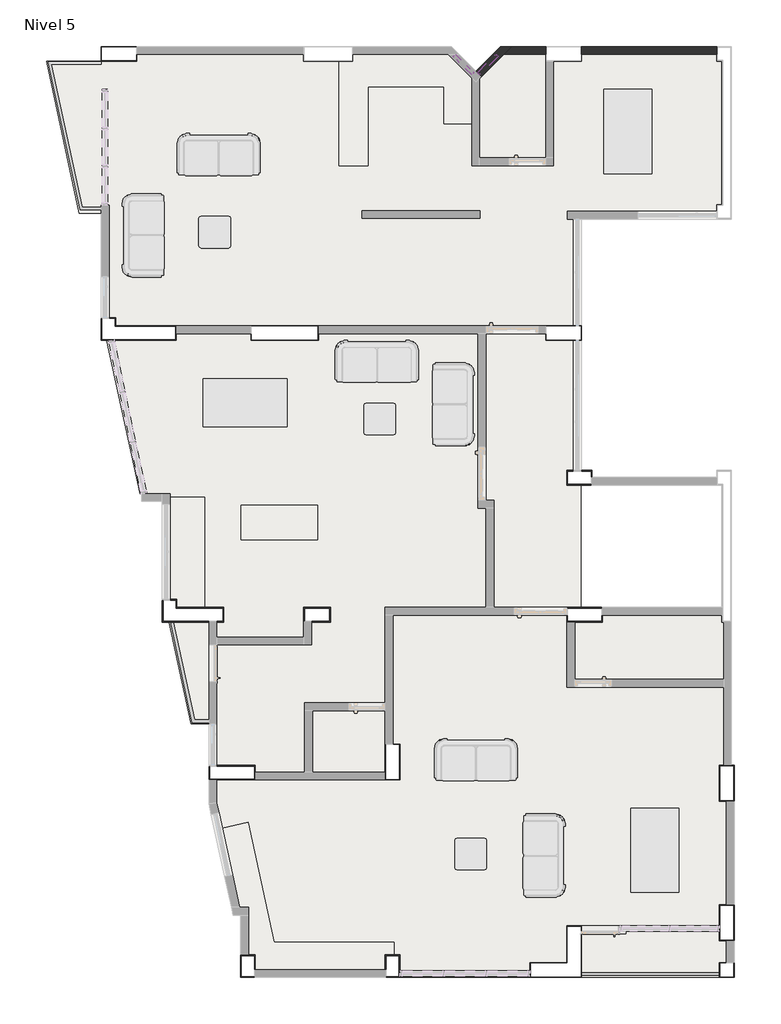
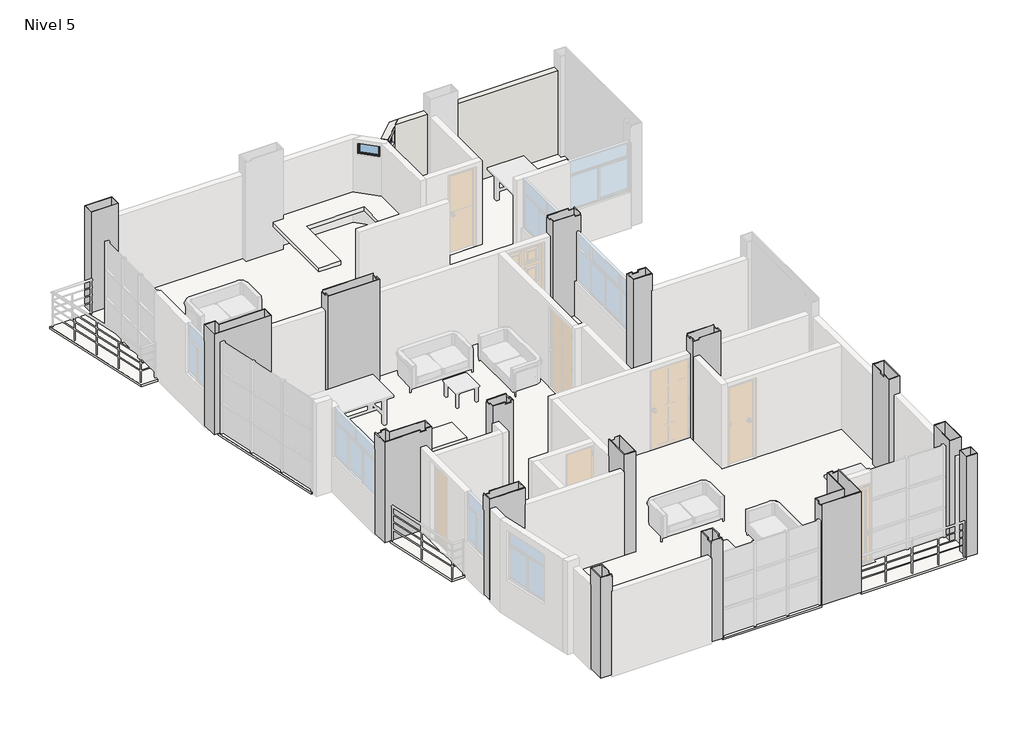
# One storey, part 3 of 4: 16 columns, 12 slabs, 3 walls, 2 windows.
"""IFC4 building model written with IfcOpenShell, lengths in millimetres."""

from ifc_helpers import new_model, si_unit, frame, origin, place, context, project, spatial, polyline, outline, extrude, faceted_brep, transform, mapped, element, save
from components import ventana_alta_1_cuerpo_va_0_50x0_30_m_a0596043

model = new_model("IFC4")

# Units and contexts
model_context = context("Model", 3, world=origin())
ifc_project = project(units=[si_unit("LENGTHUNIT", "METRE", prefix="MILLI")], contexts=[model_context])

# Site, building, storey
site = spatial("IfcSite", under=ifc_project)
building = spatial("IfcBuilding", under=site)
storey = spatial("IfcBuildingStorey", under=building, Name="Nivel 5", Elevation=10750.0)

# Columns
placement = place(None, origin())
element("IfcColumn", 1, ObjectType="Columna L Arquitectonica : ACO_L 40x114x25 cm", at=placement, inside=storey, context=model_context, shape_type="Brep", body=[
    faceted_brep([(-350.0, 6750.0, 10750.0), (-350.0, 7000.0, 10750.0), (-1240.0, 7000.0, 10750.0), (-1240.0, 7150.0, 10750.0), (-1355.0, 7150.0, 10750.0), (-1355.0, 7165.0, 10750.0), (-1225.0, 7165.0, 10750.0), (-1225.0, 7015.0, 10750.0), (-335.0, 7015.0, 10750.0), (-335.0, 6735.0, 10750.0), (-465.0, 6735.0, 10750.0), (-465.0, 6750.0, 10750.0), (-1240.0, 7150.0, 13400.0), (-1355.0, 7150.0, 13400.0), (-1355.0, 7150.0, 13350.0), (-1490.0, 7150.0, 13350.0), (-1490.0, 7150.0, 12950.0), (-1355.0, 7150.0, 12950.0), (-1490.0, 6750.0, 10750.0), (-1490.0, 7150.0, 10750.0), (-1490.0, 7150.0, 13400.0), (-1490.0, 6750.0, 13400.0), (-615.0, 6750.0, 13400.0), (-615.0, 6750.0, 13350.0), (-465.0, 6750.0, 13350.0), (-465.0, 6750.0, 13400.0), (-350.0, 6750.0, 13400.0), (-465.0, 6750.0, 12950.0), (-615.0, 6750.0, 12950.0), (-615.0, 6750.0, 10750.0), (-350.0, 7000.0, 13400.0), (-1240.0, 7000.0, 13400.0), (-1225.0, 7165.0, 13400.0), (-1225.0, 7015.0, 13400.0), (-335.0, 7015.0, 13400.0), (-335.0, 7015.0, 13350.0), (-335.0, 6735.0, 13400.0), (-465.0, 6735.0, 13400.0), (-465.0, 6735.0, 13350.0), (-615.0, 6735.0, 13350.0), (-615.0, 6735.0, 13400.0), (-1505.0, 6735.0, 13400.0), (-1505.0, 6735.0, 10750.0), (-615.0, 6735.0, 10750.0), (-615.0, 6735.0, 12950.0), (-465.0, 6735.0, 12950.0), (-1505.0, 7150.0, 13400.0), (-1505.0, 7150.0, 13350.0), (-1505.0, 7165.0, 13350.0), (-1505.0, 7165.0, 12950.0), (-1505.0, 7150.0, 12950.0), (-1505.0, 7150.0, 10750.0), (-1355.0, 7165.0, 11650.0), (-1355.0, 7165.0, 12950.0), (-1355.0, 7165.0, 13350.0), (-1355.0, 7165.0, 13400.0)], [[[0, 1, 2, 3, 4, 5, 6, 7, 8, 9, 10, 11]], [[3, 12, 13, 14, 15, 16, 17, 4]], [[18, 19, 16, 15, 20, 21]], [[18, 21, 22, 23, 24, 25, 26, 0, 11, 27, 28, 29]], [[1, 0, 26, 30]], [[2, 1, 30, 31]], [[3, 2, 31, 12]], [[7, 6, 32, 33]], [[8, 7, 33, 34, 35]], [[9, 8, 35, 34, 36]], [[9, 36, 37, 38, 39, 40, 41, 42, 43, 44, 45, 10]], [[42, 41, 46, 47, 48, 49, 50, 51]], [[32, 6, 5, 52, 53, 49, 48, 54, 55]], [[21, 20, 46, 41, 40, 22]], [[11, 10, 45, 27]], [[43, 29, 28, 44]], [[28, 27, 45, 44]], [[5, 4, 17, 53, 52]], [[16, 50, 49, 53, 17]], [[50, 16, 19, 51]], [[19, 18, 29, 43, 42, 51]], [[54, 14, 13, 55]], [[47, 15, 14, 54, 48]], [[15, 47, 46, 20]], [[24, 38, 37, 25]], [[39, 23, 22, 40]], [[38, 24, 23, 39]], [[30, 26, 25, 37, 36, 34, 33, 32, 55, 13, 12, 31]]]),
])
element("IfcColumn", 2, ObjectType="Columna L Arquitectonica : ACO_L 40x140x25 cm", at=placement, inside=storey, context=model_context, shape_type="Brep", body=[
    faceted_brep([(-2650.0, 12500.0, 10750.0), (-2650.0, 12100.0, 10750.0), (-1250.0, 12100.0, 10750.0), (-1250.0, 12350.0, 10750.0), (-2400.0, 12350.0, 10750.0), (-2400.0, 12500.0, 10750.0), (-2515.0, 12500.0, 10750.0), (-2515.0, 12515.0, 10750.0), (-2385.0, 12515.0, 10750.0), (-2385.0, 12365.0, 10750.0), (-1235.0, 12365.0, 10750.0), (-1235.0, 12085.0, 10750.0), (-2665.0, 12085.0, 10750.0), (-2665.0, 12500.0, 10750.0), (-2400.0, 12500.0, 13400.0), (-2650.0, 12500.0, 13400.0), (-2650.0, 12500.0, 12950.0), (-2515.0, 12500.0, 12950.0), (-2650.0, 12100.0, 13400.0), (-1250.0, 12100.0, 13400.0), (-1250.0, 12350.0, 13400.0), (-2400.0, 12350.0, 13400.0), (-2385.0, 12515.0, 13400.0), (-2385.0, 12365.0, 13400.0), (-1240.0, 12365.0, 13400.0), (-1240.0, 12365.0, 13350.0), (-1235.0, 12365.0, 13350.0), (-1235.0, 12365.0, 12950.0), (-1235.0, 12215.0, 13350.0), (-1235.0, 12215.0, 13400.0), (-1235.0, 12085.0, 13400.0), (-1355.0, 12085.0, 13400.0), (-1505.0, 12085.0, 13400.0), (-2665.0, 12085.0, 13400.0), (-2665.0, 12515.0, 13400.0), (-2665.0, 12515.0, 13350.0), (-2665.0, 12515.0, 12950.0), (-2665.0, 12500.0, 12950.0), (-2515.0, 12515.0, 11650.0), (-2515.0, 12515.0, 12950.0), (-1240.0, 12215.0, 13400.0), (-1240.0, 12215.0, 13350.0)], [[[0, 1, 2, 3, 4, 5, 6, 7, 8, 9, 10, 11, 12, 13]], [[14, 15, 16, 17, 6, 5]], [[1, 0, 16, 15, 18]], [[2, 1, 18, 19]], [[3, 2, 19, 20]], [[4, 3, 20, 21]], [[5, 4, 21, 14]], [[9, 8, 22, 23]], [[10, 9, 23, 24, 25, 26, 27]], [[11, 10, 27, 26, 28, 29, 30]], [[12, 11, 30, 31, 32, 33]], [[12, 33, 34, 35, 36, 37, 13]], [[22, 8, 7, 38, 39, 36, 35, 34]], [[23, 22, 34, 33, 32, 31, 30, 29, 40, 24], [15, 14, 21, 20, 19, 18]], [[7, 6, 17, 39, 38]], [[16, 37, 36, 39, 17]], [[37, 16, 0, 13]], [[28, 41, 40, 29]], [[25, 41, 28, 26]], [[41, 25, 24, 40]]]),
])
element("IfcColumn", 3, ObjectType="Columna L Arquitectonica : ACO_L 95x95x25 cm", at=placement, inside=storey, context=model_context, shape_type="Brep", body=[
    faceted_brep([(5485.0, 265.0, 10750.0), (6185.0, 265.0, 10750.0), (6185.0, 965.0, 10750.0), (6465.0, 965.0, 10750.0), (6465.0, -15.0, 10750.0), (5485.0, -15.0, 10750.0), (5500.0, 250.0, 10750.0), (5500.0, 0.0, 10750.0), (6450.0, 0.0, 10750.0), (6450.0, 950.0, 10750.0), (6200.0, 950.0, 10750.0), (6200.0, 250.0, 10750.0), (5500.0, 250.0, 13400.0), (5500.0, 135.0, 13400.0), (5500.0, 135.0, 13350.0), (5500.0, 0.0, 13350.0), (5500.0, 0.0, 13400.0), (6450.0, 0.0, 13400.0), (6450.0, 950.0, 13400.0), (6450.0, 950.0, 13350.0), (6315.0, 950.0, 13350.0), (6315.0, 950.0, 13400.0), (6200.0, 950.0, 13400.0), (6200.0, 250.0, 13400.0), (5485.0, 265.0, 13400.0), (6185.0, 265.0, 13400.0), (6185.0, 965.0, 13400.0), (6315.0, 965.0, 13400.0), (6315.0, 965.0, 13350.0), (6465.0, 965.0, 13350.0), (6465.0, 965.0, 13150.0), (6465.0, 965.0, 12850.0), (6465.0, 950.0, 13350.0), (6465.0, 950.0, 13400.0), (6465.0, -15.0, 13400.0), (5500.0, -15.0, 13400.0), (5500.0, -15.0, 13350.0), (5485.0, -15.0, 13350.0), (5485.0, 135.0, 13350.0), (5485.0, 135.0, 13400.0)], [[[0, 1, 2, 3, 4, 5], [6, 7, 8, 9, 10, 11]], [[7, 6, 12, 13, 14, 15]], [[8, 7, 15, 16, 17]], [[9, 8, 17, 18, 19]], [[10, 9, 19, 20, 21, 22]], [[11, 10, 22, 23]], [[6, 11, 23, 12]], [[1, 0, 24, 25]], [[2, 1, 25, 26]], [[3, 2, 26, 27, 28, 29, 30, 31]], [[4, 3, 31, 30, 29, 32, 33, 34]], [[5, 4, 34, 35, 36, 37]], [[0, 5, 37, 38, 39, 24]], [[17, 16, 35, 34, 33, 18]], [[20, 28, 27, 21]], [[28, 20, 19, 32, 29]], [[18, 33, 32, 19]], [[38, 14, 13, 39]], [[36, 15, 14, 38, 37]], [[15, 36, 35, 16]], [[23, 22, 21, 27, 26, 25, 24, 39, 13, 12]]]),
])
element("IfcColumn", 4, ObjectType="Columna Rectangular Arquitectonica : ACO_Rectangular 25x125 cm", at=placement, inside=storey, context=model_context, shape_type="Brep", body=[
    faceted_brep([(185.0, 12365.0, 10750.0), (1465.0, 12365.0, 10750.0), (1465.0, 12085.0, 10750.0), (185.0, 12085.0, 10750.0), (200.0, 12350.0, 10750.0), (200.0, 12100.0, 10750.0), (1450.0, 12100.0, 10750.0), (1450.0, 12350.0, 10750.0), (200.0, 12350.0, 13350.0), (200.0, 12215.0, 13350.0), (200.0, 12215.0, 13400.0), (200.0, 12100.0, 13400.0), (1450.0, 12100.0, 13400.0), (1450.0, 12215.0, 13400.0), (1450.0, 12215.0, 13350.0), (1450.0, 12350.0, 13350.0), (1450.0, 12350.0, 13400.0), (200.0, 12350.0, 13400.0), (185.0, 12365.0, 12950.0), (185.0, 12365.0, 13350.0), (200.0, 12365.0, 13350.0), (200.0, 12365.0, 13400.0), (1185.0, 12365.0, 13400.0), (1335.0, 12365.0, 13400.0), (1450.0, 12365.0, 13400.0), (1450.0, 12365.0, 13350.0), (1465.0, 12365.0, 13350.0), (1465.0, 12365.0, 12950.0), (1465.0, 12215.0, 13350.0), (1465.0, 12215.0, 13400.0), (1465.0, 12085.0, 13400.0), (185.0, 12085.0, 13400.0), (185.0, 12215.0, 13400.0), (185.0, 12215.0, 13350.0)], [[[0, 1, 2, 3], [4, 5, 6, 7]], [[5, 4, 8, 9, 10, 11]], [[6, 5, 11, 12]], [[7, 6, 12, 13, 14, 15]], [[4, 7, 15, 16, 17, 8]], [[1, 0, 18, 19, 20, 21, 22, 23, 24, 25, 26, 27]], [[2, 1, 27, 26, 28, 29, 30]], [[3, 2, 30, 31]], [[0, 3, 31, 32, 33, 19, 18]], [[12, 11, 10, 32, 31, 30, 29, 13]], [[9, 33, 32, 10]], [[8, 20, 19, 33, 9]], [[20, 8, 17, 21]], [[28, 14, 13, 29]], [[25, 15, 14, 28, 26]], [[15, 25, 24, 16]], [[17, 16, 24, 23, 22, 21]]]),
])
element("IfcColumn", 5, ObjectType="Columna Rectangular Arquitectonica : ACO_Rectangular 25x25 cm", at=placement, inside=storey, context=model_context, shape_type="Brep", body=[
    faceted_brep([(9085.0, -15.0, 10750.0), (9085.0, 265.0, 10750.0), (9365.0, 265.0, 10750.0), (9365.0, -15.0, 10750.0), (9100.0, 0.0, 10750.0), (9350.0, 0.0, 10750.0), (9350.0, 250.0, 10750.0), (9100.0, 250.0, 10750.0), (9100.0, 0.0, 13400.0), (9350.0, 0.0, 13400.0), (9350.0, 250.0, 13400.0), (9100.0, 250.0, 13400.0), (9085.0, -15.0, 13400.0), (9085.0, 265.0, 13400.0), (9365.0, 265.0, 13400.0), (9365.0, 265.0, 13350.0), (9365.0, 265.0, 12950.0), (9365.0, -15.0, 13400.0)], [[[0, 1, 2, 3], [4, 5, 6, 7]], [[8, 9, 5, 4]], [[9, 10, 6, 5]], [[10, 11, 7, 6]], [[11, 8, 4, 7]], [[12, 13, 1, 0]], [[13, 14, 15, 16, 2, 1]], [[14, 17, 3, 2, 16, 15]], [[17, 12, 0, 3]], [[12, 17, 14, 13], [8, 11, 10, 9]]]),
])
element("IfcColumn", 6, ObjectType="Columna Rectangular Arquitectonica : ACO_Rectangular 25x40 cm", at=placement, inside=storey, context=model_context, shape_type="Brep", body=[
    faceted_brep([(2750.0, 0.0, 10750.0), (3000.0, 0.0, 10750.0), (3000.0, 400.0, 10750.0), (2750.0, 400.0, 10750.0), (2750.0, 135.0, 10750.0), (2735.0, 135.0, 10750.0), (2735.0, 415.0, 10750.0), (3015.0, 415.0, 10750.0), (3015.0, -15.0, 10750.0), (2750.0, -15.0, 10750.0), (2750.0, 0.0, 12950.0), (2750.0, 0.0, 13350.0), (2750.0, 0.0, 13400.0), (3000.0, 0.0, 13400.0), (3000.0, 0.0, 13350.0), (3000.0, 135.0, 13350.0), (3000.0, 135.0, 13400.0), (3000.0, 400.0, 13400.0), (2750.0, 400.0, 13400.0), (2750.0, 135.0, 13400.0), (2750.0, 135.0, 13350.0), (2750.0, 135.0, 12950.0), (2735.0, 415.0, 13400.0), (2735.0, 135.0, 12950.0), (2735.0, -15.0, 12950.0), (2735.0, -15.0, 13350.0), (2735.0, 135.0, 13350.0), (2735.0, 135.0, 13400.0), (3015.0, 415.0, 13400.0), (3015.0, 415.0, 13350.0), (3015.0, 135.0, 13400.0), (3015.0, 135.0, 13350.0), (3015.0, -15.0, 13350.0), (3000.0, -15.0, 13350.0), (3000.0, -15.0, 13400.0), (2750.0, -15.0, 13400.0), (2750.0, -15.0, 13350.0), (2750.0, -15.0, 12950.0)], [[[0, 1, 2, 3, 4, 5, 6, 7, 8, 9]], [[1, 0, 10, 11, 12, 13, 14]], [[2, 1, 14, 15, 16, 17]], [[3, 2, 17, 18]], [[3, 18, 19, 20, 11, 10, 21, 4]], [[22, 6, 5, 23, 24, 25, 26, 27]], [[7, 6, 22, 28, 29]], [[8, 7, 29, 28, 30, 31, 32]], [[9, 8, 32, 33, 34, 35, 36, 25, 24, 37]], [[13, 12, 35, 34]], [[21, 23, 5, 4]], [[10, 37, 24, 23, 21]], [[37, 10, 0, 9]], [[26, 20, 19, 27]], [[36, 11, 20, 26, 25]], [[11, 36, 35, 12]], [[15, 31, 30, 16]], [[14, 33, 32, 31, 15]], [[33, 14, 13, 34]], [[18, 17, 16, 30, 28, 22, 27, 19]]]),
])
element("IfcColumn", 7, ObjectType="Columna Rectangular Arquitectonica : ACO_Rectangular 25x40 cm", at=placement, inside=storey, context=model_context, shape_type="Brep", body=[
    faceted_brep([(0.0, 0.0, 10750.0), (250.0, 0.0, 10750.0), (250.0, -15.0, 10750.0), (-15.0, -15.0, 10750.0), (-15.0, 415.0, 10750.0), (265.0, 415.0, 10750.0), (265.0, 135.0, 10750.0), (250.0, 135.0, 10750.0), (250.0, 400.0, 10750.0), (0.0, 400.0, 10750.0), (0.0, 0.0, 13400.0), (250.0, 0.0, 13400.0), (250.0, 0.0, 13350.0), (250.0, 0.0, 12950.0), (250.0, 400.0, 13400.0), (250.0, 135.0, 12950.0), (250.0, 135.0, 13350.0), (250.0, 135.0, 13400.0), (0.0, 400.0, 13400.0), (-15.0, -15.0, 13400.0), (-15.0, 415.0, 13400.0), (-15.0, 415.0, 13350.0), (-15.0, 415.0, 12950.0), (265.0, 415.0, 13400.0), (265.0, 135.0, 13400.0), (265.0, 135.0, 13350.0), (265.0, -15.0, 13350.0), (265.0, -15.0, 12950.0), (265.0, 135.0, 12950.0), (250.0, -15.0, 12950.0), (250.0, -15.0, 13350.0), (250.0, -15.0, 13400.0)], [[[0, 1, 2, 3, 4, 5, 6, 7, 8, 9]], [[1, 0, 10, 11, 12, 13]], [[14, 8, 7, 15, 13, 12, 16, 17]], [[9, 8, 14, 18]], [[0, 9, 18, 10]], [[4, 3, 19, 20, 21, 22]], [[5, 4, 22, 21, 20, 23]], [[5, 23, 24, 25, 26, 27, 28, 6]], [[19, 3, 2, 29, 27, 26, 30, 31]], [[11, 10, 18, 14, 17, 24, 23, 20, 19, 31]], [[28, 15, 7, 6]], [[13, 29, 2, 1]], [[29, 13, 15, 28, 27]], [[16, 25, 24, 17]], [[12, 30, 26, 25, 16]], [[30, 12, 11, 31]]]),
])
element("IfcColumn", 8, ObjectType="Columna Rectangular Arquitectonica : ACO_Rectangular 25x45 cm", at=placement, inside=storey, context=model_context, shape_type="Brep", body=[
    faceted_brep([(6650.0, 9600.0, 10750.0), (6465.0, 9600.0, 10750.0), (6465.0, 9615.0, 10750.0), (6665.0, 9615.0, 10750.0), (6665.0, 9485.0, 10750.0), (6650.0, 9485.0, 10750.0), (6200.0, 9350.0, 10750.0), (6200.0, 9600.0, 10750.0), (6200.0, 9600.0, 13400.0), (6200.0, 9350.0, 13400.0), (6650.0, 9350.0, 10750.0), (6650.0, 9350.0, 13400.0), (6650.0, 9350.0, 12950.0), (6650.0, 9600.0, 13400.0), (6650.0, 9485.0, 12950.0), (6315.0, 9600.0, 10750.0), (6315.0, 9600.0, 12950.0), (6465.0, 9600.0, 12950.0), (6465.0, 9600.0, 13400.0), (6465.0, 9600.0, 13350.0), (6315.0, 9600.0, 13350.0), (6315.0, 9600.0, 13400.0), (6665.0, 9615.0, 13400.0), (6465.0, 9615.0, 11650.0), (6465.0, 9615.0, 12950.0), (6315.0, 9615.0, 12950.0), (6315.0, 9615.0, 11650.0), (6315.0, 9615.0, 10750.0), (6185.0, 9615.0, 10750.0), (6185.0, 9615.0, 13400.0), (6315.0, 9615.0, 13400.0), (6315.0, 9615.0, 13350.0), (6465.0, 9615.0, 13350.0), (6465.0, 9615.0, 13400.0), (6665.0, 9335.0, 13400.0), (6665.0, 9335.0, 12950.0), (6665.0, 9485.0, 12950.0), (6185.0, 9335.0, 13400.0), (6185.0, 9335.0, 13350.0), (6185.0, 9335.0, 10750.0), (6650.0, 9335.0, 10750.0), (6650.0, 9335.0, 12950.0)], [[[0, 1, 2, 3, 4, 5]], [[6, 7, 8, 9]], [[10, 6, 9, 11, 12]], [[11, 13, 0, 5, 14, 12]], [[8, 7, 15, 16, 17, 1, 0, 13, 18, 19, 20, 21]], [[22, 3, 2, 23, 24, 25, 26, 27, 28, 29, 30, 31, 32, 33]], [[3, 22, 34, 35, 36, 4]], [[34, 37, 38, 39, 40, 41, 35]], [[28, 39, 38, 37, 29]], [[9, 8, 21, 30, 29, 37, 34, 22, 33, 18, 13, 11]], [[15, 27, 26, 25, 16]], [[2, 1, 17, 24, 23]], [[32, 19, 18, 33]], [[20, 31, 30, 21]], [[19, 32, 31, 20]], [[36, 14, 5, 4]], [[41, 12, 14, 36, 35]], [[12, 41, 40, 10]], [[7, 6, 10, 40, 39, 28, 27, 15]], [[17, 16, 25, 24]]]),
])
element("IfcColumn", 9, ObjectType="Columna Rectangular Arquitectonica : ACO_Rectangular 25x48 cm", at=placement, inside=storey, context=model_context, shape_type="Brep", body=[
    faceted_brep([(1200.0, 7000.0, 10750.0), (1200.0, 6750.0, 10750.0), (1185.0, 6750.0, 10750.0), (1185.0, 7015.0, 10750.0), (1695.0, 7015.0, 10750.0), (1695.0, 6735.0, 10750.0), (1335.0, 6735.0, 10750.0), (1335.0, 6750.0, 10750.0), (1680.0, 6750.0, 10750.0), (1680.0, 7000.0, 10750.0), (1200.0, 7000.0, 13350.0), (1200.0, 6865.0, 13350.0), (1200.0, 6865.0, 13400.0), (1200.0, 6750.0, 13400.0), (1200.0, 6750.0, 12950.0), (1680.0, 6750.0, 13400.0), (1335.0, 6750.0, 12950.0), (1500.8578909, 6750.0, 13400.0), (1500.8578909, 6750.0, 13350.0), (1650.8578909, 6750.0, 13350.0), (1650.8578909, 6750.0, 13400.0), (1680.0, 6865.0, 13400.0), (1680.0, 6865.0, 13350.0), (1680.0, 7000.0, 13350.0), (1680.0, 7000.0, 13400.0), (1200.0, 7000.0, 13400.0), (1185.0, 7015.0, 13350.0), (1200.0, 7015.0, 13350.0), (1200.0, 7015.0, 13400.0), (1680.0, 7015.0, 13400.0), (1680.0, 7015.0, 13350.0), (1695.0, 7015.0, 13350.0), (1695.0, 6865.0, 13350.0), (1695.0, 6865.0, 13400.0), (1695.0, 6735.0, 13400.0), (1650.8578909, 6735.0, 13400.0), (1650.8578909, 6735.0, 13350.0), (1500.8578909, 6735.0, 13350.0), (1500.8578909, 6735.0, 13400.0), (1185.0, 6735.0, 13400.0), (1185.0, 6735.0, 12950.0), (1335.0, 6735.0, 12950.0), (1185.0, 6750.0, 12950.0), (1185.0, 6865.0, 13400.0), (1185.0, 6865.0, 13350.0)], [[[0, 1, 2, 3, 4, 5, 6, 7, 8, 9]], [[1, 0, 10, 11, 12, 13, 14]], [[15, 8, 7, 16, 14, 13, 17, 18, 19, 20]], [[9, 8, 15, 21, 22, 23]], [[0, 9, 23, 24, 25, 10]], [[4, 3, 26, 27, 28, 29, 30, 31]], [[5, 4, 31, 32, 33, 34]], [[5, 34, 35, 36, 37, 38, 39, 40, 41, 6]], [[3, 2, 42, 40, 39, 43, 44, 26]], [[13, 12, 43, 39, 38, 17]], [[41, 16, 7, 6]], [[16, 41, 40, 42, 14]], [[1, 14, 42, 2]], [[32, 22, 21, 33]], [[30, 23, 22, 32, 31]], [[23, 30, 29, 24]], [[11, 44, 43, 12]], [[10, 27, 26, 44, 11]], [[27, 10, 25, 28]], [[25, 24, 29, 28]], [[37, 18, 17, 38]], [[19, 36, 35, 20]], [[18, 37, 36, 19]], [[21, 15, 20, 35, 34, 33]]]),
])
element("IfcColumn", 10, ObjectType="Columna Rectangular Arquitectonica : ACO_Rectangular 25x65 cm", at=placement, inside=storey, context=model_context, shape_type="Brep", body=[
    faceted_brep([(-2665.0, 17665.0, 10750.0), (-1985.0, 17665.0, 10750.0), (-1985.0, 17385.0, 10750.0), (-2665.0, 17385.0, 10750.0), (-2650.0, 17650.0, 10750.0), (-2650.0, 17400.0, 10750.0), (-2000.0, 17400.0, 10750.0), (-2000.0, 17650.0, 10750.0), (-2650.0, 17650.0, 13400.0), (-2650.0, 17400.0, 13400.0), (-2000.0, 17400.0, 13400.0), (-2000.0, 17650.0, 13400.0), (-2665.0, 17665.0, 13400.0), (-1985.0, 17665.0, 13400.0), (-1985.0, 17665.0, 13350.0), (-1985.0, 17665.0, 12950.0), (-1985.0, 17385.0, 13400.0), (-2665.0, 17385.0, 13400.0)], [[[0, 1, 2, 3], [4, 5, 6, 7]], [[8, 9, 5, 4]], [[9, 10, 6, 5]], [[10, 11, 7, 6]], [[11, 8, 4, 7]], [[12, 13, 14, 15, 1, 0]], [[13, 16, 2, 1, 15, 14]], [[16, 17, 3, 2]], [[17, 12, 0, 3]], [[12, 17, 16, 13], [8, 11, 10, 9]]]),
])
element("IfcColumn", 11, ObjectType="Columna Rectangular Arquitectonica : ACO_Rectangular 25x65 cm", at=placement, inside=storey, context=model_context, shape_type="Brep", body=[
    faceted_brep([(5785.0, 12365.0, 10750.0), (6465.0, 12365.0, 10750.0), (6465.0, 12085.0, 10750.0), (5785.0, 12085.0, 10750.0), (5800.0, 12350.0, 10750.0), (5800.0, 12100.0, 10750.0), (6450.0, 12100.0, 10750.0), (6450.0, 12350.0, 10750.0), (5800.0, 12350.0, 13350.0), (5800.0, 12215.0, 13350.0), (5800.0, 12215.0, 13400.0), (5800.0, 12100.0, 13400.0), (6315.0, 12100.0, 13400.0), (6315.0, 12100.0, 13350.0), (6450.0, 12100.0, 13350.0), (6450.0, 12100.0, 13400.0), (6450.0, 12350.0, 13400.0), (6450.0, 12350.0, 13350.0), (6315.0, 12350.0, 13350.0), (6315.0, 12350.0, 13400.0), (5800.0, 12350.0, 13400.0), (5785.0, 12365.0, 12950.0), (5785.0, 12365.0, 13350.0), (5800.0, 12365.0, 13350.0), (5800.0, 12365.0, 13400.0), (6315.0, 12365.0, 13400.0), (6315.0, 12365.0, 13350.0), (6465.0, 12365.0, 13350.0), (6465.0, 12365.0, 11650.0), (6465.0, 12350.0, 13350.0), (6465.0, 12350.0, 13400.0), (6465.0, 12100.0, 13400.0), (6465.0, 12100.0, 13350.0), (6465.0, 12085.0, 13350.0), (6465.0, 12085.0, 11650.0), (6315.0, 12085.0, 13350.0), (6315.0, 12085.0, 13400.0), (5785.0, 12085.0, 13400.0), (5785.0, 12215.0, 13400.0), (5785.0, 12215.0, 13350.0)], [[[0, 1, 2, 3], [4, 5, 6, 7]], [[5, 4, 8, 9, 10, 11]], [[6, 5, 11, 12, 13, 14]], [[7, 6, 14, 15, 16, 17]], [[4, 7, 17, 18, 19, 20, 8]], [[1, 0, 21, 22, 23, 24, 25, 26, 27, 28]], [[2, 1, 28, 27, 29, 30, 31, 32, 33, 34]], [[3, 2, 34, 33, 35, 36, 37]], [[0, 3, 37, 38, 39, 22, 21]], [[11, 10, 38, 37, 36, 12]], [[9, 39, 38, 10]], [[8, 23, 22, 39, 9]], [[23, 8, 20, 24]], [[18, 26, 25, 19]], [[17, 29, 27, 26, 18]], [[29, 17, 16, 30]], [[24, 20, 19, 25]], [[35, 13, 12, 36]], [[32, 14, 13, 35, 33]], [[14, 32, 31, 15]], [[16, 15, 31, 30]]]),
])
element("IfcColumn", 12, ObjectType="Columna Rectangular Arquitectonica : ACO_Rectangular 25x65 cm", at=placement, inside=storey, context=model_context, shape_type="Brep", body=[
    faceted_brep([(6850.0, 7000.0, 10750.0), (6200.0, 7000.0, 10750.0), (6200.0, 7015.0, 10750.0), (6850.0, 7015.0, 10750.0), (6200.0, 6750.0, 10750.0), (6200.0, 6865.0, 10750.0), (6200.0, 6865.0, 12950.0), (6200.0, 7000.0, 12950.0), (6200.0, 7000.0, 13350.0), (6200.0, 6865.0, 13350.0), (6200.0, 6865.0, 13400.0), (6200.0, 6750.0, 13400.0), (6200.0, 6750.0, 13350.0), (6850.0, 6750.0, 10750.0), (6335.0, 6750.0, 13350.0), (6335.0, 6750.0, 13400.0), (6850.0, 6750.0, 13400.0), (6850.0, 6865.0, 13400.0), (6850.0, 6865.0, 13350.0), (6850.0, 7000.0, 13350.0), (6850.0, 7000.0, 12950.0), (6850.0, 6865.0, 12950.0), (6850.0, 6865.0, 10750.0), (6850.0, 7000.0, 13400.0), (6200.0, 7000.0, 13400.0), (6200.0, 7015.0, 12950.0), (6185.0, 7015.0, 12950.0), (6185.0, 7015.0, 13350.0), (6200.0, 7015.0, 13350.0), (6200.0, 7015.0, 13400.0), (6850.0, 7015.0, 13400.0), (6850.0, 7015.0, 13350.0), (6865.0, 7015.0, 13350.0), (6865.0, 7015.0, 12950.0), (6850.0, 7015.0, 12950.0), (6865.0, 6735.0, 13400.0), (6865.0, 6735.0, 10750.0), (6865.0, 6865.0, 10750.0), (6865.0, 6865.0, 12950.0), (6865.0, 6865.0, 13350.0), (6865.0, 6865.0, 13400.0), (6185.0, 6735.0, 10750.0), (6335.0, 6735.0, 13400.0), (6335.0, 6735.0, 13350.0), (6185.0, 6735.0, 13350.0), (6185.0, 6735.0, 12950.0), (6185.0, 6865.0, 10750.0), (6185.0, 6750.0, 13350.0), (6185.0, 6750.0, 13400.0), (6185.0, 6865.0, 13400.0), (6185.0, 6865.0, 13350.0), (6185.0, 6865.0, 12950.0), (6185.0, 6865.0, 12850.0)], [[[0, 1, 2, 3]], [[4, 5, 6, 7, 8, 9, 10, 11, 12]], [[13, 4, 12, 14, 15, 16]], [[13, 16, 17, 18, 19, 20, 21, 22]], [[1, 0, 20, 19, 23, 24, 8, 7]], [[2, 25, 26, 27, 28, 29, 30, 31, 32, 33, 34, 3]], [[35, 36, 37, 38, 33, 32, 39, 40]], [[41, 36, 35, 42, 43, 44, 45]], [[46, 41, 45, 44, 47, 48, 49, 50, 27, 26, 51, 52]], [[11, 10, 49, 48]], [[51, 6, 5, 46, 52]], [[25, 2, 1, 7]], [[6, 51, 26, 25, 7]], [[21, 38, 37, 22]], [[20, 34, 33, 38, 21]], [[34, 20, 0, 3]], [[4, 13, 22, 37, 36, 41, 46, 5]], [[9, 50, 49, 10]], [[8, 28, 27, 50, 9]], [[28, 8, 24, 29]], [[14, 43, 42, 15]], [[43, 14, 12, 47, 44]], [[11, 48, 47, 12]], [[16, 15, 42, 35, 40, 17]], [[39, 18, 17, 40]], [[31, 19, 18, 39, 32]], [[19, 31, 30, 23]], [[24, 23, 30, 29]]]),
])
element("IfcColumn", 13, ObjectType="Columna Rectangular Arquitectonica : ACO_Rectangular 25x65 cm", at=placement, inside=storey, context=model_context, shape_type="Brep", body=[
    faceted_brep([(2735.0, 3735.0, 10750.0), (2735.0, 4415.0, 10750.0), (3015.0, 4415.0, 10750.0), (3015.0, 3735.0, 10750.0), (2750.0, 3750.0, 10750.0), (3000.0, 3750.0, 10750.0), (3000.0, 4400.0, 10750.0), (2750.0, 4400.0, 10750.0), (2750.0, 3750.0, 13400.0), (3000.0, 3750.0, 13400.0), (3000.0, 4400.0, 13400.0), (2885.0, 4400.0, 13400.0), (2885.0, 4400.0, 13350.0), (2750.0, 4400.0, 13350.0), (2750.0, 4400.0, 13400.0), (2735.0, 3735.0, 12950.0), (2735.0, 3735.0, 13350.0), (2735.0, 3735.0, 13400.0), (2735.0, 4400.0, 13400.0), (2735.0, 4400.0, 13350.0), (2735.0, 4415.0, 13350.0), (2735.0, 4415.0, 12950.0), (2885.0, 4415.0, 13350.0), (2885.0, 4415.0, 13400.0), (3015.0, 4415.0, 13400.0), (3015.0, 3735.0, 13400.0)], [[[0, 1, 2, 3], [4, 5, 6, 7]], [[5, 4, 8, 9]], [[6, 5, 9, 10]], [[7, 6, 10, 11, 12, 13]], [[4, 7, 13, 14, 8]], [[1, 0, 15, 16, 17, 18, 19, 20, 21]], [[2, 1, 21, 20, 22, 23, 24]], [[3, 2, 24, 25]], [[0, 3, 25, 17, 16, 15]], [[9, 8, 14, 18, 17, 25, 24, 23, 11, 10]], [[22, 12, 11, 23]], [[19, 13, 12, 22, 20]], [[13, 19, 18, 14]]]),
])
element("IfcColumn", 14, ObjectType="Columna Rectangular Arquitectonica : ACO_Rectangular 25x65 cm", at=placement, inside=storey, context=model_context, shape_type="Brep", body=[
    faceted_brep([(9085.0, 685.0, 10750.0), (9085.0, 1365.0, 10750.0), (9365.0, 1365.0, 10750.0), (9365.0, 685.0, 10750.0), (9100.0, 700.0, 10750.0), (9350.0, 700.0, 10750.0), (9350.0, 1350.0, 10750.0), (9100.0, 1350.0, 10750.0), (9100.0, 700.0, 13400.0), (9350.0, 700.0, 13400.0), (9350.0, 1350.0, 13400.0), (9100.0, 1350.0, 13400.0), (9085.0, 685.0, 13400.0), (9085.0, 1365.0, 13400.0), (9365.0, 1365.0, 13400.0), (9365.0, 1365.0, 13350.0), (9365.0, 1365.0, 12950.0), (9365.0, 685.0, 13400.0), (9365.0, 685.0, 13350.0), (9365.0, 685.0, 12950.0)], [[[0, 1, 2, 3], [4, 5, 6, 7]], [[8, 9, 5, 4]], [[9, 10, 6, 5]], [[10, 11, 7, 6]], [[11, 8, 4, 7]], [[12, 13, 1, 0]], [[13, 14, 15, 16, 2, 1]], [[14, 17, 18, 19, 3, 2, 16, 15]], [[17, 12, 0, 3, 19, 18]], [[12, 17, 14, 13], [8, 11, 10, 9]]]),
])
element("IfcColumn", 15, ObjectType="Columna Rectangular Arquitectonica : ACO_Rectangular 25x65 cm", at=placement, inside=storey, context=model_context, shape_type="Brep", body=[
    faceted_brep([(9085.0, 3335.0, 10750.0), (9085.0, 4015.0, 10750.0), (9365.0, 4015.0, 10750.0), (9365.0, 3335.0, 10750.0), (9100.0, 3350.0, 10750.0), (9350.0, 3350.0, 10750.0), (9350.0, 4000.0, 10750.0), (9100.0, 4000.0, 10750.0), (9100.0, 3350.0, 13400.0), (9350.0, 3350.0, 13400.0), (9350.0, 4000.0, 13400.0), (9100.0, 4000.0, 13400.0), (9100.0, 3699.6610156, 13400.0), (9100.0, 3699.6610156, 13350.0), (9100.0, 3549.6610156, 13350.0), (9100.0, 3549.6610156, 13400.0), (9085.0, 3335.0, 13400.0), (9085.0, 3549.6610156, 13400.0), (9085.0, 3549.6610156, 13350.0), (9085.0, 3699.6610156, 13350.0), (9085.0, 3699.6610156, 13400.0), (9085.0, 4015.0, 13400.0), (9365.0, 4015.0, 13400.0), (9365.0, 3335.0, 13400.0), (9365.0, 3335.0, 13350.0), (9365.0, 3335.0, 12950.0)], [[[0, 1, 2, 3], [4, 5, 6, 7]], [[5, 4, 8, 9]], [[6, 5, 9, 10]], [[7, 6, 10, 11]], [[4, 7, 11, 12, 13, 14, 15, 8]], [[1, 0, 16, 17, 18, 19, 20, 21]], [[2, 1, 21, 22]], [[3, 2, 22, 23, 24, 25]], [[0, 3, 25, 24, 23, 16]], [[9, 8, 15, 17, 16, 23, 22, 21, 20, 12, 11, 10]], [[19, 13, 12, 20]], [[14, 18, 17, 15]], [[13, 19, 18, 14]]]),
])
element("IfcColumn", 16, ObjectType="Columna Rectangular Arquitectonica : ACO_Rectangular 25x85 cm", at=placement, inside=storey, context=model_context, shape_type="Brep", body=[
    faceted_brep([(250.0, 3750.0, 10750.0), (250.0, 4000.0, 10750.0), (-465.0, 4000.0, 10750.0), (-465.0, 4015.0, 10750.0), (265.0, 4015.0, 10750.0), (265.0, 3735.0, 10750.0), (-615.0, 3735.0, 10750.0), (-615.0, 4000.0, 10750.0), (-600.0, 4000.0, 10750.0), (-600.0, 3750.0, 10750.0), (250.0, 3750.0, 13400.0), (250.0, 4000.0, 13400.0), (-465.0, 4000.0, 13400.0), (-465.0, 4000.0, 13350.0), (-600.0, 4000.0, 13350.0), (-600.0, 4000.0, 12950.0), (-465.0, 4000.0, 12950.0), (-600.0, 4000.0, 13400.0), (-600.0, 3750.0, 13400.0), (265.0, 3735.0, 12950.0), (265.0, 3735.0, 13350.0), (265.0, 3735.0, 13400.0), (-615.0, 3735.0, 13400.0), (-615.0, 3735.0, 13350.0), (-615.0, 3735.0, 13150.0), (-615.0, 4000.0, 13400.0), (-615.0, 4000.0, 13350.0), (-615.0, 4015.0, 13350.0), (-615.0, 4015.0, 12950.0), (-615.0, 4000.0, 12950.0), (265.0, 4015.0, 13400.0), (-465.0, 4015.0, 11650.0), (-465.0, 4015.0, 12950.0), (-465.0, 4015.0, 13350.0), (-465.0, 4015.0, 13400.0)], [[[0, 1, 2, 3, 4, 5, 6, 7, 8, 9]], [[1, 0, 10, 11]], [[1, 11, 12, 13, 14, 15, 16, 2]], [[9, 8, 15, 14, 17, 18]], [[0, 9, 18, 10]], [[6, 5, 19, 20, 21, 22, 23, 24]], [[6, 24, 23, 22, 25, 26, 27, 28, 29, 7]], [[30, 4, 3, 31, 32, 28, 27, 33, 34]], [[5, 4, 30, 21, 20, 19]], [[11, 10, 18, 17, 25, 22, 21, 30, 34, 12]], [[3, 2, 16, 32, 31]], [[15, 29, 28, 32, 16]], [[29, 15, 8, 7]], [[33, 13, 12, 34]], [[26, 14, 13, 33, 27]], [[14, 26, 25, 17]]]),
])

# Slabs
element("IfcSlab", 17, ObjectType="Mesa de Trabajo", at=placement, inside=storey, context=model_context, shape_type="SweptSolid", body=[
    extrude(outline(polyline([(2409.9062648, 15400.6304309), (1859.9880617, 15400.6304309), (1859.9880617, 17385.0), (2115.0, 17385.0), (2115.0, 17515.0), (3927.8210981, 17515.0), (4379.9531324, 17062.8679656), (4379.9531324, 16200.0), (3854.9531324, 16200.0), (3854.9531324, 16900.3626818), (2409.9062648, 16900.3626818), (2409.9062648, 15400.6304309)])), frame((0.0, 0.0, 11450.0), z_axis=(0.0, 0.0, 1.0), x_axis=(1.0, 0.0, 0.0)), (0.0, 0.0, 1.0), 100.0),
])
element("IfcSlab", 18, ObjectType="Mesa de Trabajo", at=placement, inside=storey, context=model_context, shape_type="SweptSolid", body=[
    extrude(outline(polyline([(-1355.0, 9100.3626818), (-695.0, 9100.3626818), (-695.0, 7015.0), (-1225.0, 7015.0), (-1225.0, 7165.0), (-1355.0, 7165.0), (-1355.0, 9100.3626818)])), frame((0.0, 0.0, 11450.0), z_axis=(0.0, 0.0, 1.0), x_axis=(1.0, 0.0, 0.0)), (0.0, 0.0, 1.0), 100.0),
])
element("IfcSlab", 19, ObjectType="Mesa de Trabajo", at=placement, inside=storey, context=model_context, shape_type="SweptSolid", body=[
    extrude(outline(polyline([(1450.0, 8950.3626818), (1450.0, 8300.3626818), (0.0, 8300.3626818), (0.0, 8950.3626818), (1450.0, 8950.3626818)])), frame((0.0, 0.0, 11450.0), z_axis=(0.0, 0.0, 1.0), x_axis=(1.0, 0.0, 0.0)), (0.0, 0.0, 1.0), 100.0),
])
element("IfcSlab", 20, ObjectType="Mesa de Trabajo", at=placement, inside=storey, context=model_context, shape_type="SweptSolid", body=[
    extrude(outline(polyline([(2900.0, 649.8868096), (2900.0, 415.0), (2735.0, 415.0), (2735.0, 135.0), (265.0, 135.0), (265.0, 415.0), (135.0, 415.0), (135.0, 1320.0), (-35.0804526, 1320.0), (-360.8917316, 2822.7729534), (127.7556707, 2928.7149952), (621.8209412, 649.8868096), (2900.0, 649.8868096)])), frame((0.0, 0.0, 11450.0), z_axis=(0.0, 0.0, 1.0), x_axis=(1.0, 0.0, 0.0)), (0.0, 0.0, 1.0), 100.0),
])
element("IfcSlab", 21, ObjectType="Piso Acabado 5cm", at=placement, inside=storey, context=model_context, shape_type="SweptSolid", body=[
    extrude(outline(polyline([(-2665.0, 14503.6972314), (-3078.5268652, 14503.6972314), (-3701.7752241, 17385.0), (-1985.0, 17385.0), (-1985.0, 17515.0), (1185.0, 17515.0), (1185.0, 17385.0), (2115.0, 17385.0), (2115.0, 17515.0), (3927.8210981, 17515.0), (4379.9531324, 17062.8679656), (4379.9531324, 15400.0), (5935.0, 15400.0), (5935.0, 17385.0), (6465.0, 17385.0), (6465.0, 17515.0), (9035.0, 17515.0), (9035.0, 17385.0), (9135.0, 17385.0), (9135.0, 14665.0), (9035.0, 14665.0), (9035.0, 14535.0), (6200.0, 14535.0), (6200.0, 14385.0), (6315.0, 14385.0), (6315.0, 12365.0), (5649.9926226, 12365.0), (5649.9926226, 12290.0), (4649.9926226, 12290.0), (4649.9926226, 12365.0), (-2385.0, 12365.0), (-2385.0, 12515.0), (-2515.0, 12515.0), (-2515.0, 14650.0), (-2665.0, 14650.0), (-2665.0, 14503.6972314)]), holes=[polyline([(4539.9926226, 14550.3626818), (2289.9926226, 14550.3626818), (2289.9926226, 14400.3626818), (4539.9926226, 14400.3626818), (4539.9926226, 14550.3626818)])]), frame((0.0, 0.0, 10700.0), z_axis=(0.0, 0.0, 1.0), x_axis=(1.0, 0.0, 0.0)), (0.0, 0.0, 1.0), 50.0),
])
element("IfcSlab", 22, ObjectType="Piso Acabado 5cm", at=placement, inside=storey, context=model_context, shape_type="SweptSolid", body=[
    extrude(outline(polyline([(4529.9531324, 17062.8679656), (4982.0851668, 17515.0), (5785.0, 17515.0), (5785.0, 15400.0), (5085.0, 15400.0), (5085.0, 15550.0), (4529.9531324, 15550.0), (4529.9531324, 17062.8679656)])), frame((0.0, 0.0, 10700.0), z_axis=(0.0, 0.0, 1.0), x_axis=(1.0, 0.0, 0.0)), (0.0, 0.0, 1.0), 50.0),
])
element("IfcSlab", 23, ObjectType="Piso Acabado 5cm", at=placement, inside=storey, context=model_context, shape_type="SweptSolid", body=[
    extrude(outline(polyline([(6450.0207179, 7015.0), (4799.9926226, 7015.0), (4799.9926226, 9050.3626818), (4649.9926226, 9050.3626818), (4649.9926226, 12290.0), (5649.9926226, 12290.0), (5649.9926226, 12215.0), (5785.0, 12215.0), (5785.0, 12085.0), (6315.0, 12085.0), (6315.0, 9615.0), (6185.0, 9615.0), (6185.0, 9335.0), (6450.0207179, 9335.0), (6450.0207179, 7015.0)])), frame((0.0, 0.0, 10700.0), z_axis=(0.0, 0.0, 1.0), x_axis=(1.0, 0.0, 0.0)), (0.0, 0.0, 1.0), 50.0),
])
element("IfcSlab", 24, ObjectType="Piso Acabado 5cm", at=placement, inside=storey, context=model_context, shape_type="SweptSolid", body=[
    extrude(outline(polyline([(5485.0, -15.0), (3015.0, -15.0), (3015.0, 415.0), (2735.0, 415.0), (2735.0, 135.0), (265.0, 135.0), (265.0, 415.0), (135.0, 415.0), (135.0, 1320.0), (-35.0804526, 1320.0), (-465.0, 3302.9622535), (-465.0, 3735.0), (3015.0, 3735.0), (3015.0, 4415.0), (2885.0, 4415.0), (2885.0, 6865.0), (5185.0, 6865.0), (5185.0, 7015.0), (6185.0, 7015.0), (6185.0, 5500.3626818), (9165.0, 5500.3626818), (9165.0, 4015.0), (9085.0, 4015.0), (9085.0, 3335.0), (9215.0, 3335.0), (9215.0, 1365.0), (9085.0, 1365.0), (9085.0, 685.0), (9215.0, 685.0), (9215.0, 265.0), (9085.0, 265.0), (9085.0, -15.0), (6465.0, -15.0), (6465.0, 965.0), (6185.0, 965.0), (6185.0, 265.0), (5485.0, 265.0), (5485.0, -15.0)])), frame((0.0, 0.0, 10700.0), z_axis=(0.0, 0.0, 1.0), x_axis=(1.0, 0.0, 0.0)), (0.0, 0.0, 1.0), 50.0),
])
element("IfcSlab", 25, ObjectType="Piso Acabado 5cm", at=placement, inside=storey, context=model_context, shape_type="SweptSolid", body=[
    extrude(outline(polyline([(9135.0, 6865.0), (9135.0, 6735.0), (9165.0, 6735.0), (9165.0, 5650.3626818), (7035.0, 5650.3626818), (7035.0, 5500.3626818), (6335.0, 5500.3626818), (6335.0, 6735.0), (6865.0, 6735.0), (6865.0, 6865.0), (9135.0, 6865.0)])), frame((0.0, 0.0, 10700.0), z_axis=(0.0, 0.0, 1.0), x_axis=(1.0, 0.0, 0.0)), (0.0, 0.0, 1.0), 50.0),
])
element("IfcSlab", 26, ObjectType="Piso Acabado 5cm", at=placement, inside=storey, context=model_context, shape_type="SweptSolid", body=[
    extrude(outline(polyline([(-1926.0438001, 9175.720673), (-2555.3437077, 12085.0), (-1235.0, 12085.0), (-1235.0, 12215.0), (185.0, 12215.0), (185.0, 12085.0), (1465.0, 12085.0), (1465.0, 12215.0), (4499.9926226, 12215.0), (4499.9926226, 10050.3626818), (4649.9926226, 10050.3626818), (4649.9926226, 9050.3626818), (4499.9926226, 9050.3626818), (4499.9926226, 8900.3626818), (4649.9926226, 8900.3626818), (4649.9926226, 7015.0), (2735.0, 7015.0), (2735.0, 5200.3626818), (1200.0, 5200.3626818), (1200.0, 3885.0), (265.0, 3885.0), (265.0, 4015.0), (-465.0, 4015.0), (-465.0, 6300.3626818), (1335.0, 6300.3626818), (1335.0, 6735.0), (1695.0, 6735.0), (1695.0, 7015.0), (1185.0, 7015.0), (1185.0, 6450.3626818), (-465.0, 6450.3626818), (-465.0, 6735.0), (-335.0, 6735.0), (-335.0, 7015.0), (-1225.0, 7015.0), (-1225.0, 7165.0), (-1355.0, 7165.0), (-1355.0, 9175.720673), (-1926.0438001, 9175.720673)])), frame((0.0, 0.0, 10700.0), z_axis=(0.0, 0.0, 1.0), x_axis=(1.0, 0.0, 0.0)), (0.0, 0.0, 1.0), 50.0),
])
element("IfcSlab", 27, ObjectType="Piso Acabado 5cm", at=placement, inside=storey, context=model_context, shape_type="SweptSolid", body=[
    extrude(outline(polyline([(1350.0, 5050.3626818), (2035.0, 5050.3626818), (2035.0, 5200.3626818), (2735.0, 5200.3626818), (2735.0, 3885.0), (1350.0, 3885.0), (1350.0, 5050.3626818)])), frame((0.0, 0.0, 10700.0), z_axis=(0.0, 0.0, 1.0), x_axis=(1.0, 0.0, 0.0)), (0.0, 0.0, 1.0), 50.0),
])
element("IfcSlab", 28, ObjectType="Piso Acabado 5cm", at=placement, inside=storey, context=model_context, shape_type="SweptSolid", body=[
    extrude(outline(polyline([(-615.0, 4800.7253635), (-951.964334, 4800.7253635), (-1370.3630896, 6735.0), (-615.0, 6735.0), (-615.0, 4800.7253635)])), frame((0.0, 0.0, 10700.0), z_axis=(0.0, 0.0, 1.0), x_axis=(1.0, 0.0, 0.0)), (0.0, 0.0, 1.0), 50.0),
])

# Walls
element("IfcWall", 29, ObjectType="AMS_Muro Interior-Exterior, e=15 cm", at=placement, inside=storey, context=model_context, shape_type="Brep", body=[
    faceted_brep([(4914.5725402, 17447.4873734, 12550.0), (4561.0191496, 17093.9339828, 12550.0), (4561.0191496, 17093.9339828, 10700.0), (4982.0851668, 17515.0, 10700.0), (5132.0851668, 17665.0, 10700.0), (5132.0851668, 17665.0, 12950.0), (4982.0851668, 17515.0, 12950.0), (4561.0191496, 17093.9339828, 12950.0), (4561.0191496, 17093.9339828, 12850.0), (4914.5725402, 17447.4873734, 12850.0), (4454.9531324, 17200.0, 10700.0), (4454.9531324, 17200.0, 12550.0), (4808.506523, 17553.5533906, 12550.0), (4808.506523, 17553.5533906, 12850.0), (4454.9531324, 17200.0, 12850.0), (4454.9531324, 17200.0, 12950.0), (4919.9531324, 17665.0, 12950.0), (4919.9531324, 17665.0, 10700.0)], [[[0, 1, 2, 3, 4, 5, 6, 7, 8, 9]], [[10, 11, 12, 13, 14, 15, 16, 17]], [[4, 3, 2, 10, 17]], [[7, 6, 5, 16, 15]], [[8, 7, 15, 14]], [[2, 1, 11, 10]], [[5, 4, 17, 16]], [[13, 12, 0, 9]], [[14, 13, 9, 8]], [[12, 11, 1, 0]]]),
])
element("IfcWall", 30, ObjectType="AMS_Muro Interior-Exterior, e=15 cm", at=placement, inside=storey, context=model_context, shape_type="Brep", body=[
    faceted_brep([(4982.0851668, 17515.0, 10700.0), (5785.0, 17515.0, 10700.0), (5785.0, 17515.0, 12950.0), (4982.0851668, 17515.0, 12950.0), (5132.0851668, 17665.0, 10700.0), (5132.0851668, 17665.0, 12950.0), (5785.0, 17665.0, 12950.0), (5785.0, 17665.0, 10750.0), (5785.0, 17665.0, 10700.0)], [[[0, 1, 2, 3]], [[4, 5, 6, 7, 8]], [[1, 0, 4, 8]], [[2, 1, 8, 7, 6]], [[3, 2, 6, 5]], [[0, 3, 5, 4]]]),
])
element("IfcWall", 31, ObjectType="AMS_Muro Interior-Exterior, e=15 cm", at=placement, inside=storey, context=model_context, shape_type="Brep", body=[
    faceted_brep([(6465.0, 17515.0, 10700.0), (9035.0, 17515.0, 10700.0), (9035.0, 17515.0, 12950.0), (6465.0, 17515.0, 12950.0), (6465.0, 17665.0, 10700.0), (6465.0, 17665.0, 10750.0), (6465.0, 17665.0, 12950.0), (9035.0, 17665.0, 12950.0), (9035.0, 17665.0, 10750.0), (9035.0, 17665.0, 10700.0)], [[[0, 1, 2, 3]], [[4, 5, 6, 7, 8, 9]], [[1, 0, 4, 9]], [[2, 1, 9, 8, 7]], [[3, 2, 7, 6]], [[0, 3, 6, 5, 4]]]),
])

# Windows
ventana_alta_1_cuerpo_va_0_50x0_30_m_shape = ventana_alta_1_cuerpo_va_0_50x0_30_m_a0596043(model_context)
element("IfcWindow", 32, ObjectType="Ventana alta 1 cuerpo : VA 0.50x0.30 m", at=placement, inside=storey, context=model_context, shape_type="MappedRepresentation", body=[
    mapped(ventana_alta_1_cuerpo_va_0_50x0_30_m_shape, transform((4225.1434285, 17323.7436867, 10950.0), x_axis=(-0.7071067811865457, 0.7071067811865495, 0.0), y_axis=(-0.7071067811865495, -0.7071067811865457, 0.0), z_axis=(0.0, 0.0, 1.0))),
])
element("IfcWindow", 33, ObjectType="Ventana alta 1 cuerpo : VA 0.50x0.30 m", at=placement, inside=storey, context=model_context, shape_type="MappedRepresentation", body=[
    mapped(ventana_alta_1_cuerpo_va_0_50x0_30_m_shape, transform((4684.7628363, 17323.7436867, 10950.0), x_axis=(-0.7071067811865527, -0.7071067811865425, 0.0), y_axis=(0.7071067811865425, -0.7071067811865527, 0.0), z_axis=(0.0, 0.0, 1.0))),
])

save(model, "model.ifc")
